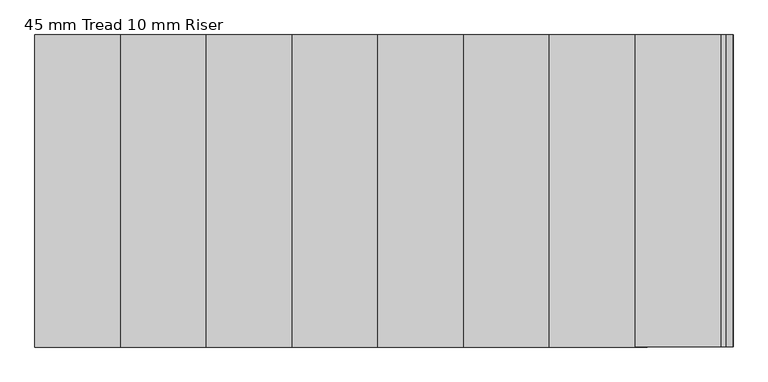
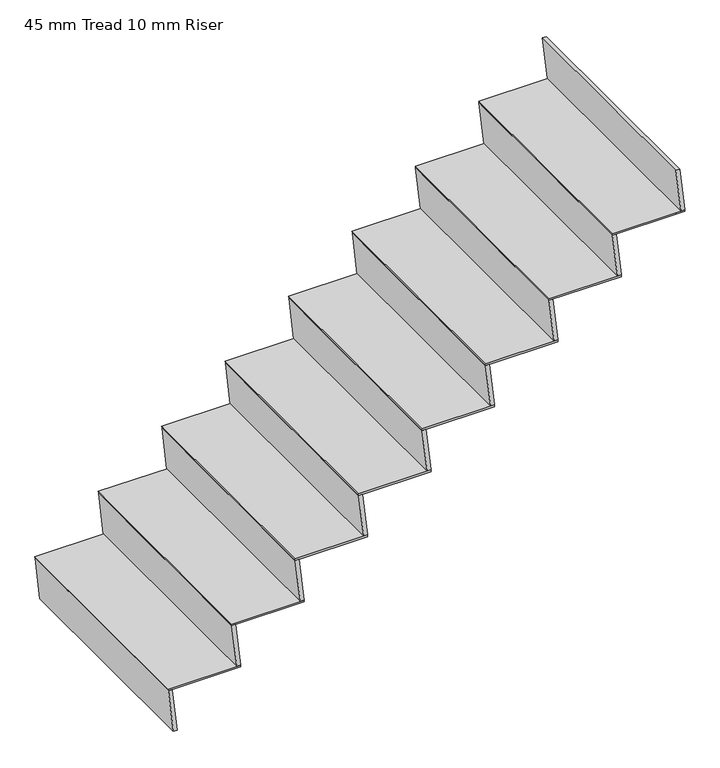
"""IFC4 building model written with IfcOpenShell, lengths in millimetres: stair flight geometry, 45 mm Tread 10 mm Riser."""

from ifc_helpers import new_model, si_unit, origin, place, context, project, spatial, faceted_brep, source, transform, mapped, element, save


def stair_flight_45_mm_tread_10_mm_riser_4d8eba7b(model_context):
    return source(origin(), model_context, "Body", "Brep", [
        faceted_brep([(12713.3181818, 6790.0, 3575.8333333), (12732.5, 6790.0, 3400.0), (12747.5889922, 6790.0, 3400.0), (12728.407174, 6790.0, 3575.8333333), (12713.3181818, 7700.0, 3575.8333333), (12728.407174, 7700.0, 3575.8333333), (12747.5889922, 7700.0, 3400.0), (12732.5, 7700.0, 3400.0)], [[[0, 1, 2, 3]], [[4, 5, 6, 7]], [[1, 0, 4, 7]], [[2, 1, 7, 6]], [[3, 2, 6, 5]], [[0, 3, 5, 4]]]),
        faceted_brep([(12997.5889922, 7700.0, 3583.3333333), (12712.5, 7700.0, 3583.3333333), (12712.5, 6790.0, 3583.3333333), (12997.5889922, 6790.0, 3583.3333333), (12998.407174, 7700.0, 3575.8333333), (12998.407174, 6790.0, 3575.8333333), (12713.3181818, 6790.0, 3575.8333333), (12713.3181818, 7700.0, 3575.8333333)], [[[0, 1, 2, 3]], [[4, 5, 6, 7]], [[1, 0, 4, 7]], [[3, 2, 6, 5]], [[3, 5, 4, 0]], [[2, 1, 7, 6]]]),
        faceted_brep([(12963.3181818, 6790.0, 3759.1666667), (12982.5, 6790.0, 3583.3333333), (12997.5889922, 6790.0, 3583.3333333), (12978.407174, 6790.0, 3759.1666667), (12963.3181818, 7700.0, 3759.1666667), (12978.407174, 7700.0, 3759.1666667), (12997.5889922, 7700.0, 3583.3333333), (12982.5, 7700.0, 3583.3333333)], [[[0, 1, 2, 3]], [[4, 5, 6, 7]], [[1, 0, 4, 7]], [[2, 1, 7, 6]], [[3, 2, 6, 5]], [[0, 3, 5, 4]]]),
        faceted_brep([(13247.5889922, 7700.0, 3766.6666667), (12962.5, 7700.0, 3766.6666667), (12962.5, 6790.0, 3766.6666667), (13247.5889922, 6790.0, 3766.6666667), (13248.407174, 7700.0, 3759.1666667), (13248.407174, 6790.0, 3759.1666667), (12963.3181818, 6790.0, 3759.1666667), (12963.3181818, 7700.0, 3759.1666667)], [[[0, 1, 2, 3]], [[4, 5, 6, 7]], [[1, 0, 4, 7]], [[3, 2, 6, 5]], [[3, 5, 4, 0]], [[2, 1, 7, 6]]]),
        faceted_brep([(13213.3181818, 6790.0, 3942.5), (13232.5, 6790.0, 3766.6666667), (13247.5889922, 6790.0, 3766.6666667), (13228.407174, 6790.0, 3942.5), (13213.3181818, 7700.0, 3942.5), (13228.407174, 7700.0, 3942.5), (13247.5889922, 7700.0, 3766.6666667), (13232.5, 7700.0, 3766.6666667)], [[[0, 1, 2, 3]], [[4, 5, 6, 7]], [[1, 0, 4, 7]], [[2, 1, 7, 6]], [[3, 2, 6, 5]], [[0, 3, 5, 4]]]),
        faceted_brep([(13497.5889922, 7700.0, 3950.0), (13212.5, 7700.0, 3950.0), (13212.5, 6790.0, 3950.0), (13497.5889922, 6790.0, 3950.0), (13498.407174, 7700.0, 3942.5), (13498.407174, 6790.0, 3942.5), (13213.3181818, 6790.0, 3942.5), (13213.3181818, 7700.0, 3942.5)], [[[0, 1, 2, 3]], [[4, 5, 6, 7]], [[1, 0, 4, 7]], [[3, 2, 6, 5]], [[3, 5, 4, 0]], [[2, 1, 7, 6]]]),
        faceted_brep([(13463.3181818, 6790.0, 4125.8333333), (13482.5, 6790.0, 3950.0), (13497.5889922, 6790.0, 3950.0), (13478.407174, 6790.0, 4125.8333333), (13463.3181818, 7700.0, 4125.8333333), (13478.407174, 7700.0, 4125.8333333), (13497.5889922, 7700.0, 3950.0), (13482.5, 7700.0, 3950.0)], [[[0, 1, 2, 3]], [[4, 5, 6, 7]], [[1, 0, 4, 7]], [[2, 1, 7, 6]], [[3, 2, 6, 5]], [[0, 3, 5, 4]]]),
        faceted_brep([(13747.5889922, 7700.0, 4133.3333333), (13462.5, 7700.0, 4133.3333333), (13462.5, 6790.0, 4133.3333333), (13747.5889922, 6790.0, 4133.3333333), (13748.407174, 7700.0, 4125.8333333), (13748.407174, 6790.0, 4125.8333333), (13463.3181818, 6790.0, 4125.8333333), (13463.3181818, 7700.0, 4125.8333333)], [[[0, 1, 2, 3]], [[4, 5, 6, 7]], [[1, 0, 4, 7]], [[3, 2, 6, 5]], [[3, 5, 4, 0]], [[2, 1, 7, 6]]]),
        faceted_brep([(13713.3181818, 6790.0, 4309.1666667), (13732.5, 6790.0, 4133.3333333), (13747.5889922, 6790.0, 4133.3333333), (13728.407174, 6790.0, 4309.1666667), (13713.3181818, 7700.0, 4309.1666667), (13728.407174, 7700.0, 4309.1666667), (13747.5889922, 7700.0, 4133.3333333), (13732.5, 7700.0, 4133.3333333)], [[[0, 1, 2, 3]], [[4, 5, 6, 7]], [[1, 0, 4, 7]], [[2, 1, 7, 6]], [[3, 2, 6, 5]], [[0, 3, 5, 4]]]),
        faceted_brep([(13997.5889922, 7700.0, 4316.6666667), (13712.5, 7700.0, 4316.6666667), (13712.5, 6790.0, 4316.6666667), (13997.5889922, 6790.0, 4316.6666667), (13998.407174, 7700.0, 4309.1666667), (13998.407174, 6790.0, 4309.1666667), (13713.3181818, 6790.0, 4309.1666667), (13713.3181818, 7700.0, 4309.1666667)], [[[0, 1, 2, 3]], [[4, 5, 6, 7]], [[1, 0, 4, 7]], [[3, 2, 6, 5]], [[3, 5, 4, 0]], [[2, 1, 7, 6]]]),
        faceted_brep([(13963.3181818, 6790.0, 4492.5), (13982.5, 6790.0, 4316.6666667), (13997.5889922, 6790.0, 4316.6666667), (13978.407174, 6790.0, 4492.5), (13963.3181818, 7700.0, 4492.5), (13978.407174, 7700.0, 4492.5), (13997.5889922, 7700.0, 4316.6666667), (13982.5, 7700.0, 4316.6666667)], [[[0, 1, 2, 3]], [[4, 5, 6, 7]], [[1, 0, 4, 7]], [[2, 1, 7, 6]], [[3, 2, 6, 5]], [[0, 3, 5, 4]]]),
        faceted_brep([(14247.5889922, 7700.0, 4500.0), (13962.5, 7700.0, 4500.0), (13962.5, 6790.0, 4500.0), (14247.5889922, 6790.0, 4500.0), (14248.407174, 7700.0, 4492.5), (14248.407174, 6790.0, 4492.5), (13963.3181818, 6790.0, 4492.5), (13963.3181818, 7700.0, 4492.5)], [[[0, 1, 2, 3]], [[4, 5, 6, 7]], [[1, 0, 4, 7]], [[3, 2, 6, 5]], [[3, 5, 4, 0]], [[2, 1, 7, 6]]]),
        faceted_brep([(14213.3181818, 6790.0, 4675.8333333), (14232.5, 6790.0, 4500.0), (14247.5889922, 6790.0, 4500.0), (14228.407174, 6790.0, 4675.8333333), (14213.3181818, 7700.0, 4675.8333333), (14228.407174, 7700.0, 4675.8333333), (14247.5889922, 7700.0, 4500.0), (14232.5, 7700.0, 4500.0)], [[[0, 1, 2, 3]], [[4, 5, 6, 7]], [[1, 0, 4, 7]], [[2, 1, 7, 6]], [[3, 2, 6, 5]], [[0, 3, 5, 4]]]),
        faceted_brep([(14497.5889922, 7700.0, 4683.3333333), (14212.5, 7700.0, 4683.3333333), (14212.5, 6790.0, 4683.3333333), (14497.5889922, 6790.0, 4683.3333333), (14498.407174, 7700.0, 4675.8333333), (14498.407174, 6790.0, 4675.8333333), (14213.3181818, 6790.0, 4675.8333333), (14213.3181818, 7700.0, 4675.8333333)], [[[0, 1, 2, 3]], [[4, 5, 6, 7]], [[1, 0, 4, 7]], [[3, 2, 6, 5]], [[3, 5, 4, 0]], [[2, 1, 7, 6]]]),
        faceted_brep([(14713.3181818, 6790.0, 5042.5), (14732.5, 6790.0, 4866.6666667), (14747.5889922, 6790.0, 4866.6666667), (14728.407174, 6790.0, 5042.5), (14713.3181818, 7700.0000224, 5042.5), (14728.407174, 7700.0000224, 5042.5), (14747.5889922, 7700.0000224, 4866.6666667), (14732.5, 7700.0000224, 4866.6666667)], [[[0, 1, 2, 3]], [[4, 5, 6, 7]], [[1, 0, 4, 7]], [[2, 1, 7, 6]], [[3, 2, 6, 5]], [[0, 3, 5, 4]]]),
        faceted_brep([(14463.3181818, 6790.0, 4859.1666667), (14482.5, 6790.0, 4683.3333333), (14497.5889922, 6790.0, 4683.3333333), (14478.407174, 6790.0, 4859.1666667), (14463.3181818, 7700.0, 4859.1666667), (14478.407174, 7700.0, 4859.1666667), (14497.5889922, 7700.0, 4683.3333333), (14482.5, 7700.0, 4683.3333333)], [[[0, 1, 2, 3]], [[4, 5, 6, 7]], [[1, 0, 4, 7]], [[2, 1, 7, 6]], [[3, 2, 6, 5]], [[0, 3, 5, 4]]]),
        faceted_brep([(14747.5889922, 7700.0000224, 4866.6666667), (14712.5, 7700.0000224, 4866.6666667), (14462.5, 7700.0, 4866.6666667), (14462.5, 6790.0, 4866.6666667), (14712.5, 6790.0, 4866.6666667), (14747.5889922, 6790.0, 4866.6666667), (14748.407174, 7700.0000224, 4859.1666667), (14748.407174, 6790.0, 4859.1666667), (14712.5, 6790.0, 4859.1666667), (14463.3181818, 6790.0, 4859.1666667), (14463.3181818, 7700.0, 4859.1666667), (14712.5, 7700.0, 4859.1666667)], [[[0, 1, 2, 3, 4, 5]], [[6, 7, 8, 9, 10, 11]], [[1, 0, 6, 11]], [[2, 1, 11, 10]], [[4, 3, 9, 8]], [[5, 4, 8, 7]], [[5, 7, 6, 0]], [[3, 2, 10, 9]]]),
    ])


if __name__ == "__main__":
    model = new_model("IFC4")
    model_context = context("Model", 3, world=origin())
    ifc_project = project(units=[si_unit("LENGTHUNIT", "METRE", prefix="MILLI")], contexts=[model_context])
    site = spatial("IfcSite", under=ifc_project)
    building = spatial("IfcBuilding", under=site)
    placement = place(None, origin())
    stair_flight_45_mm_tread_10_mm_riser_shape = stair_flight_45_mm_tread_10_mm_riser_4d8eba7b(model_context)
    element("IfcStairFlight", 1, ObjectType="45 mm Tread 10 mm Riser", at=placement, inside=building, context=model_context, shape_type="MappedRepresentation", body=[
        mapped(stair_flight_45_mm_tread_10_mm_riser_shape, transform((0.0, 0.0, 0.0), x_axis=(1.0, 0.0, 0.0), y_axis=(0.0, 1.0, 0.0), z_axis=(0.0, 0.0, 1.0))),
    ])
    save(model, "model.ifc")
